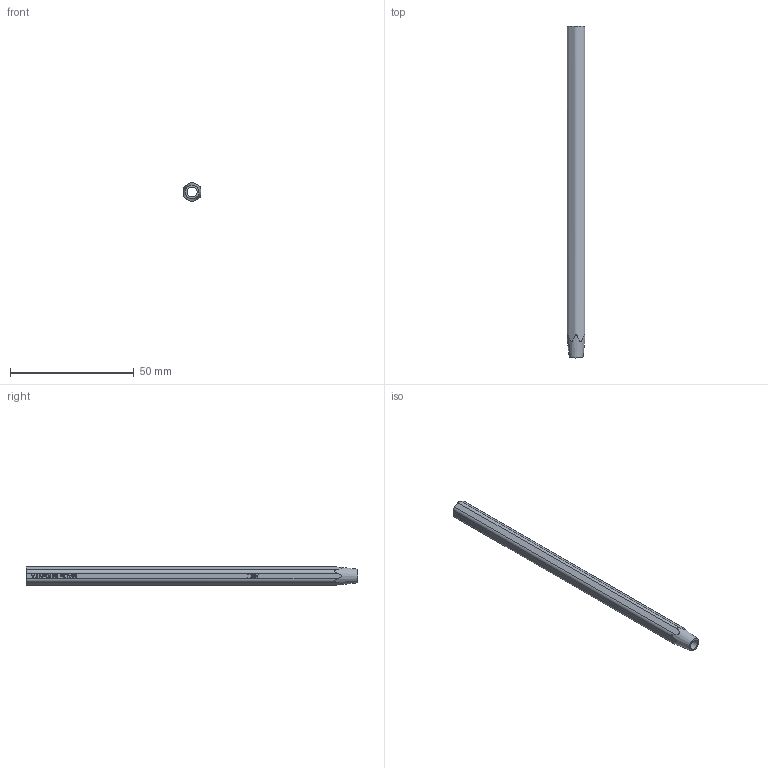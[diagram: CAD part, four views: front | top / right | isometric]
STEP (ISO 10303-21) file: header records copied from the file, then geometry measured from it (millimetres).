
FILE_DESCRIPTION(/* description */ ('STEP AP242 Edition 2','CAx-IF Rec.Pracs.---Representation and Presentation of Product Manufacturing Information (PMI)---4.0---2014-10-13','CAx-IF Rec.Pracs.---3D Tessellated Geometry---0.4---2014-09-14','2;1','CAx-IF Rec.Pracs.---User Defined Attributes---1.5---2016-08-15'),/* implementation_level */ '2;1');
FILE_NAME(/* name */ 'Final Build - pen shell',/* time_stamp */ '2026-08-31T23:26:25Z',/* author */ (''),/* organization */ (''),/* preprocessor_version */ 'ST-DEVELOPER v20',/* originating_system */ 'ONSHAPE BY PTC INC, 1.220',/* authorisation */ ' ');
FILE_SCHEMA (('AP242_MANAGED_MODEL_BASED_3D_ENGINEERING_MIM_LF { 1 0 10303 442 3 1 4 }'));
Length unit declared in the file: metre
Products named in the file (1): pen shell
Bounding box: 7.1 x 134 x 7.62 mm (x, y, z)
Volume: 1890.8 mm3; surface area: 5596.6 mm2
Topology: 1 solids, 1 shells, 198 faces, 530 edges, 352 vertices
Faces by surface type: plane 152, bspline 24, cylinder 18, cone 4
Full cylindrical faces by diameter (mm): 1 x1, 6 x1
Entity records: 7615 total; most frequent: CARTESIAN_POINT 2843, ORIENTED_EDGE 1044, DIRECTION 834, EDGE_CURVE 522, LINE 418, VECTOR 418, VERTEX_POINT 350, EDGE_LOOP 226
